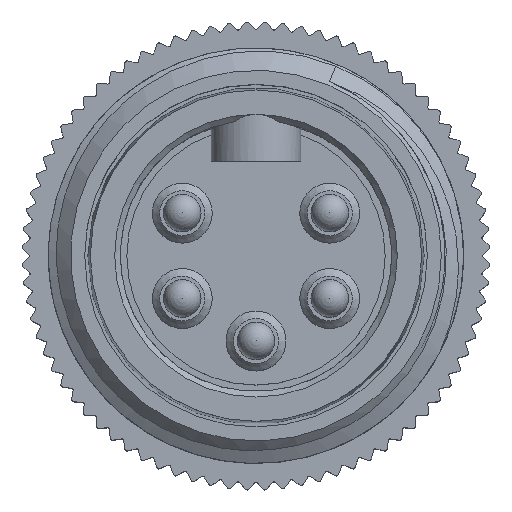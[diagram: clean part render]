
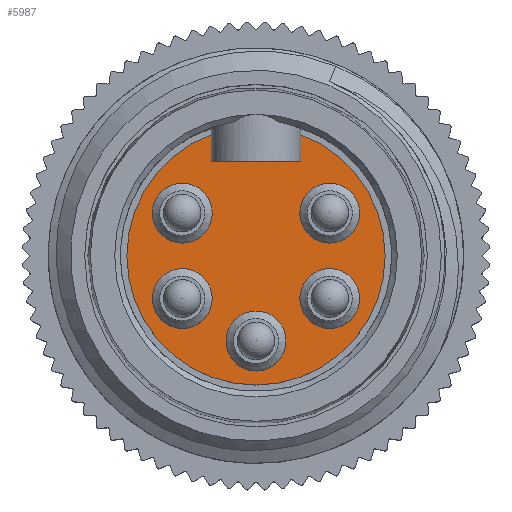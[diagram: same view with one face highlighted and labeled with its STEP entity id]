
A CAD part, top view. The second image highlights one B-rep face of the part: STEP entity #5987.
In plain terms, the highlighted planar face has unit normal (0, 0, 1).
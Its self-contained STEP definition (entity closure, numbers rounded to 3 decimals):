
#28 = CARTESIAN_POINT ( 'NONE',  ( 0., 0., -8. ) ) ;
#392 = ORIENTED_EDGE ( 'NONE', *, *, #18814, .F. ) ;
#470 = AXIS2_PLACEMENT_3D ( 'NONE', #28, #6784, #5135 ) ;
#768 = AXIS2_PLACEMENT_3D ( 'NONE', #13162, #4947, #21171 ) ;
#1154 = EDGE_CURVE ( 'NONE', #17366, #17366, #1343, .T. ) ;
#1343 = CIRCLE ( 'NONE', #768, 1.6 ) ;
#1719 = VERTEX_POINT ( 'NONE', #7349 ) ;
#1963 = DIRECTION ( 'NONE',  ( -1., 0., 0. ) ) ;
#2006 = CIRCLE ( 'NONE', #20612, 1.6 ) ;
#2384 = VERTEX_POINT ( 'NONE', #10543 ) ;
#2441 = CARTESIAN_POINT ( 'NONE',  ( 3.94, 2.28, -8. ) ) ;
#2763 = CARTESIAN_POINT ( 'NONE',  ( -3.94, 2.28, -8. ) ) ;
#2935 = CARTESIAN_POINT ( 'NONE',  ( 0., 6.9, -8. ) ) ;
#3079 = ORIENTED_EDGE ( 'NONE', *, *, #6283, .F. ) ;
#3199 = EDGE_LOOP ( 'NONE', ( #16592 ) ) ;
#3274 = DIRECTION ( 'NONE',  ( -1., 0., 0. ) ) ;
#3277 = DIRECTION ( 'NONE',  ( -1., 0., 0. ) ) ;
#3319 = CIRCLE ( 'NONE', #14039, 1.6 ) ;
#3868 = LINE ( 'NONE', #6479, #12546 ) ;
#4278 = DIRECTION ( 'NONE',  ( 1., 0., 0. ) ) ;
#4343 = FACE_BOUND ( 'NONE', #19896, .T. ) ;
#4868 = EDGE_CURVE ( 'NONE', #2384, #18911, #11446, .T. ) ;
#4947 = DIRECTION ( 'NONE',  ( 0., 0., 1. ) ) ;
#5135 = DIRECTION ( 'NONE',  ( 1., 0., 0. ) ) ;
#5792 = CARTESIAN_POINT ( 'NONE',  ( -5.54, 2.28, -8. ) ) ;
#5968 = CIRCLE ( 'NONE', #470, 6.9 ) ;
#5987 = ADVANCED_FACE ( 'NONE', ( #17133, #4343, #8687, #16879, #6629, #11455 ), #19165, .F. ) ;
#6157 = AXIS2_PLACEMENT_3D ( 'NONE', #8117, #9688, #3277 ) ;
#6282 = DIRECTION ( 'NONE',  ( 0., 0., 1. ) ) ;
#6283 = EDGE_CURVE ( 'NONE', #1719, #1719, #2006, .T. ) ;
#6334 = AXIS2_PLACEMENT_3D ( 'NONE', #2935, #9356, #9495 ) ;
#6336 = VERTEX_POINT ( 'NONE', #5792 ) ;
#6479 = CARTESIAN_POINT ( 'NONE',  ( 2.4, 6.9, -8. ) ) ;
#6629 = FACE_BOUND ( 'NONE', #18451, .T. ) ;
#6784 = DIRECTION ( 'NONE',  ( 0., 0., 1. ) ) ;
#7111 = LINE ( 'NONE', #10146, #7631 ) ;
#7349 = CARTESIAN_POINT ( 'NONE',  ( 2.34, 2.28, -8. ) ) ;
#7631 = VECTOR ( 'NONE', #13674, 1000. ) ;
#8079 = CARTESIAN_POINT ( 'NONE',  ( 2.4, 6.469, -8. ) ) ;
#8117 = CARTESIAN_POINT ( 'NONE',  ( 3.94, -2.28, -8. ) ) ;
#8579 = ORIENTED_EDGE ( 'NONE', *, *, #4868, .F. ) ;
#8687 = FACE_BOUND ( 'NONE', #3199, .T. ) ;
#9356 = DIRECTION ( 'NONE',  ( 0., 0., -1. ) ) ;
#9495 = DIRECTION ( 'NONE',  ( 0., -1., 0. ) ) ;
#9675 = ORIENTED_EDGE ( 'NONE', *, *, #17931, .F. ) ;
#9688 = DIRECTION ( 'NONE',  ( 0., 0., 1. ) ) ;
#10146 = CARTESIAN_POINT ( 'NONE',  ( -2.4, 6.9, -8. ) ) ;
#10543 = CARTESIAN_POINT ( 'NONE',  ( -2.4, 5.05, -8. ) ) ;
#10657 = CIRCLE ( 'NONE', #13086, 1.6 ) ;
#11223 = EDGE_CURVE ( 'NONE', #15624, #20982, #5968, .T. ) ;
#11446 = LINE ( 'NONE', #12401, #16587 ) ;
#11455 = FACE_BOUND ( 'NONE', #18080, .T. ) ;
#11704 = ORIENTED_EDGE ( 'NONE', *, *, #20644, .F. ) ;
#12168 = EDGE_CURVE ( 'NONE', #16322, #16322, #17968, .T. ) ;
#12401 = CARTESIAN_POINT ( 'NONE',  ( 0., 5.05, -8. ) ) ;
#12546 = VECTOR ( 'NONE', #13107, 1000. ) ;
#13086 = AXIS2_PLACEMENT_3D ( 'NONE', #2763, #17292, #14216 ) ;
#13107 = DIRECTION ( 'NONE',  ( 0., 1., 0. ) ) ;
#13162 = CARTESIAN_POINT ( 'NONE',  ( 0., -4.55, -8. ) ) ;
#13674 = DIRECTION ( 'NONE',  ( 0., -1., 0. ) ) ;
#13936 = CARTESIAN_POINT ( 'NONE',  ( -1.6, -4.55, -8. ) ) ;
#14039 = AXIS2_PLACEMENT_3D ( 'NONE', #18000, #6282, #3274 ) ;
#14164 = CARTESIAN_POINT ( 'NONE',  ( -5.54, -2.28, -8. ) ) ;
#14216 = DIRECTION ( 'NONE',  ( -1., 0., 0. ) ) ;
#14525 = DIRECTION ( 'NONE',  ( 0., 0., 1. ) ) ;
#15624 = VERTEX_POINT ( 'NONE', #20172 ) ;
#16172 = EDGE_LOOP ( 'NONE', ( #3079 ) ) ;
#16322 = VERTEX_POINT ( 'NONE', #17178 ) ;
#16496 = CARTESIAN_POINT ( 'NONE',  ( 2.4, 5.05, -8. ) ) ;
#16587 = VECTOR ( 'NONE', #4278, 1000. ) ;
#16592 = ORIENTED_EDGE ( 'NONE', *, *, #12168, .F. ) ;
#16879 = FACE_BOUND ( 'NONE', #16172, .T. ) ;
#17133 = FACE_OUTER_BOUND ( 'NONE', #21007, .T. ) ;
#17178 = CARTESIAN_POINT ( 'NONE',  ( 2.34, -2.28, -8. ) ) ;
#17292 = DIRECTION ( 'NONE',  ( 0., 0., 1. ) ) ;
#17366 = VERTEX_POINT ( 'NONE', #13936 ) ;
#17931 = EDGE_CURVE ( 'NONE', #18911, #20982, #3868, .T. ) ;
#17968 = CIRCLE ( 'NONE', #6157, 1.6 ) ;
#18000 = CARTESIAN_POINT ( 'NONE',  ( -3.94, -2.28, -8. ) ) ;
#18080 = EDGE_LOOP ( 'NONE', ( #19905 ) ) ;
#18451 = EDGE_LOOP ( 'NONE', ( #20103 ) ) ;
#18814 = EDGE_CURVE ( 'NONE', #21179, #21179, #3319, .T. ) ;
#18911 = VERTEX_POINT ( 'NONE', #16496 ) ;
#19165 = PLANE ( 'NONE',  #6334 ) ;
#19736 = ORIENTED_EDGE ( 'NONE', *, *, #11223, .T. ) ;
#19896 = EDGE_LOOP ( 'NONE', ( #392 ) ) ;
#19905 = ORIENTED_EDGE ( 'NONE', *, *, #1154, .F. ) ;
#20103 = ORIENTED_EDGE ( 'NONE', *, *, #20184, .F. ) ;
#20172 = CARTESIAN_POINT ( 'NONE',  ( -2.4, 6.469, -8. ) ) ;
#20184 = EDGE_CURVE ( 'NONE', #6336, #6336, #10657, .T. ) ;
#20612 = AXIS2_PLACEMENT_3D ( 'NONE', #2441, #14525, #1963 ) ;
#20644 = EDGE_CURVE ( 'NONE', #15624, #2384, #7111, .T. ) ;
#20982 = VERTEX_POINT ( 'NONE', #8079 ) ;
#21007 = EDGE_LOOP ( 'NONE', ( #11704, #19736, #9675, #8579 ) ) ;
#21171 = DIRECTION ( 'NONE',  ( -1., 0., 0. ) ) ;
#21179 = VERTEX_POINT ( 'NONE', #14164 ) ;
